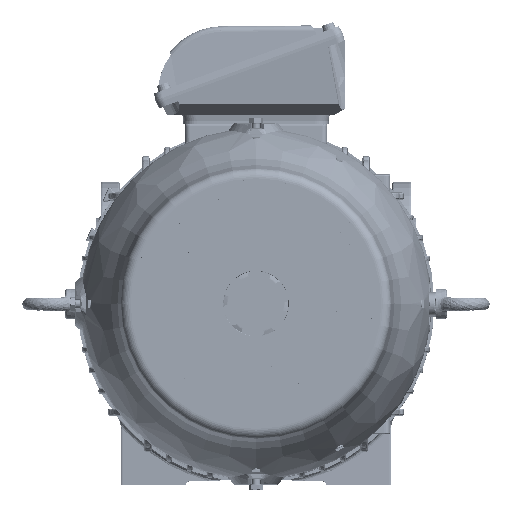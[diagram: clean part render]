
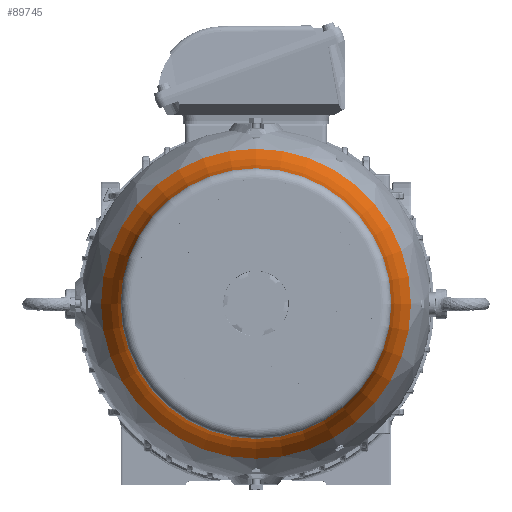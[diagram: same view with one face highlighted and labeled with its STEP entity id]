
A CAD part, top view. The second image highlights one B-rep face of the part: STEP entity #89745.
In plain terms, the highlighted toroidal (fillet/blend) face has major radius 264.661 mm and minor radius 130 mm.
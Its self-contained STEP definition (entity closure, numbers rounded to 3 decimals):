
#5858=TOROIDAL_SURFACE('',#96811,264.661,130.);
#10585=FACE_OUTER_BOUND('',#16026,.T.);
#16026=EDGE_LOOP('',(#64786,#64787,#64788,#64789,#64790,#64791));
#21463=CIRCLE('',#96809,154.526);
#21464=CIRCLE('',#96810,154.526);
#21465=CIRCLE('',#96812,130.);
#21466=CIRCLE('',#96813,134.976);
#21467=CIRCLE('',#96814,134.976);
#36678=VERTEX_POINT('',#143292);
#36679=VERTEX_POINT('',#143296);
#36680=VERTEX_POINT('',#143408);
#36681=VERTEX_POINT('',#143410);
#46754=EDGE_CURVE('',#36678,#36679,#21463,.T.);
#46755=EDGE_CURVE('',#36679,#36678,#21464,.T.);
#46760=EDGE_CURVE('',#36678,#36680,#21465,.T.);
#46761=EDGE_CURVE('',#36680,#36681,#21466,.T.);
#46762=EDGE_CURVE('',#36681,#36680,#21467,.T.);
#64786=ORIENTED_EDGE('',*,*,#46755,.F.);
#64787=ORIENTED_EDGE('',*,*,#46754,.F.);
#64788=ORIENTED_EDGE('',*,*,#46760,.T.);
#64789=ORIENTED_EDGE('',*,*,#46761,.T.);
#64790=ORIENTED_EDGE('',*,*,#46762,.T.);
#64791=ORIENTED_EDGE('',*,*,#46760,.F.);
#89745=ADVANCED_FACE('',(#10585),#5858,.F.);
#96809=AXIS2_PLACEMENT_3D('',#143297,#111216,#111217);
#96810=AXIS2_PLACEMENT_3D('',#143298,#111218,#111219);
#96811=AXIS2_PLACEMENT_3D('',#143407,#111220,#111221);
#96812=AXIS2_PLACEMENT_3D('',#143409,#111222,#111223);
#96813=AXIS2_PLACEMENT_3D('',#143411,#111224,#111225);
#96814=AXIS2_PLACEMENT_3D('',#143412,#111226,#111227);
#111216=DIRECTION('center_axis',(0.,0.,
-1.));
#111217=DIRECTION('ref_axis',(-1.,0.,0.));
#111218=DIRECTION('center_axis',(0.,0.,
-1.));
#111219=DIRECTION('ref_axis',(-1.,0.,0.));
#111220=DIRECTION('center_axis',(0.,0.,
-1.));
#111221=DIRECTION('ref_axis',(-1.,0.,0.));
#111222=DIRECTION('center_axis',(0.,1.,0.));
#111223=DIRECTION('ref_axis',(1.,0.,0.));
#111224=DIRECTION('center_axis',(0.,0.,
-1.));
#111225=DIRECTION('ref_axis',(-1.,0.,0.));
#111226=DIRECTION('center_axis',(0.,0.,
-1.));
#111227=DIRECTION('ref_axis',(-1.,0.,0.));
#143292=CARTESIAN_POINT('',(154.526,0.,642.164));
#143296=CARTESIAN_POINT('',(-154.526,0.,642.164));
#143297=CARTESIAN_POINT('Origin',(0.,0.,
642.164));
#143298=CARTESIAN_POINT('Origin',(0.,0.,
642.164));
#143407=CARTESIAN_POINT('Origin',(0.,0.,
711.231));
#143408=CARTESIAN_POINT('',(134.976,0.,702.195));
#143409=CARTESIAN_POINT('Origin',(264.661,0.,
711.231));
#143410=CARTESIAN_POINT('',(-134.976,0.,702.195));
#143411=CARTESIAN_POINT('Origin',(0.,0.,
702.195));
#143412=CARTESIAN_POINT('Origin',(0.,0.,
702.195));
